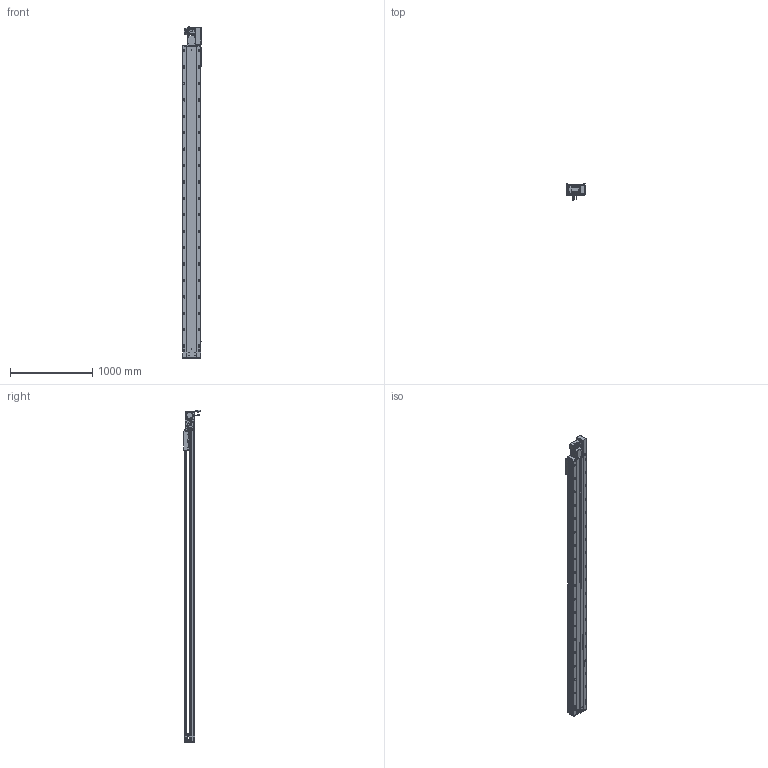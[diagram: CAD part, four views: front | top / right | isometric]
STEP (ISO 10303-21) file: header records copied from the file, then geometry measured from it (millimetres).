
FILE_DESCRIPTION (( 'STEP AP203' ), '1' );
FILE_NAME ('RY220-T-300-RK.SLDASM_3450.step', '2022-07-25T08:26:28', ( '' ), ( '' ), 'SwSTEP 2.0', 'SolidWorks 2016', '' );
FILE_SCHEMA (( 'CONFIG_CONTROL_DESIGN' ));
Length unit declared in the file: millimetre
Products named in the file (14): RY220-T-湍謫欶(鍼踢); RY220-同步轮副支撑座6304×2; RY220翋肮祭謫裔啣; 怢湛750W_ECMA-CX0807ES; RY220-T-300-奻裔啣_3450; RY220-俋离672覜茼んえ; RY220-T-300-RK.SLDASM_3450; RY220-T-蛌殏萇儂假蚾啣(750W); RY220-T菁釱-300_3450; 覜茼ん672; RY220翋肮祭謫釱; RY220圉猾敕々湍臏賑輸; 滅袉蝶18-15; 110A-T-肮祭謫釱傷裔
Assembly tree (18 placements, depth 2):
  RY220-T-300-RK.SLDASM_3450
    RY220-T菁釱-300_3450
    RY220翋肮祭謫釱
    覜茼ん672  x3
    RY220圉猾敕々湍臏賑輸
    RY220-T-300-奻裔啣_3450
    RY220-俋离672覜茼んえ
    滅袉蝶18-15  x3
    RY220翋肮祭謫裔啣  x2
    110A-T-肮祭謫釱傷裔
    怢湛750W_ECMA-CX0807ES
    RY220-T-湍謫欶(鍼踢)
    RY220-T-蛌殏萇儂假蚾啣(750W)
    RY220-同步轮副支撑座6304×2
Bounding box: 238.7 x 198.77 x 4045.24 mm (x, y, z)
Volume: 28111799.6 mm3; surface area: 8749335.8 mm2
Topology: 19 solids, 19 shells, 3134 faces, 8679 edges, 5416 vertices
Faces by surface type: cylinder 1570, plane 1069, cone 413, bspline 56, sphere 16, torus 10
Entity records: 104659 total; most frequent: CARTESIAN_POINT 29445, ORIENTED_EDGE 15514, DIRECTION 15072, EDGE_CURVE 7757, AXIS2_PLACEMENT_3D 5472, VERTEX_POINT 5040, LINE 4128, VECTOR 4128
